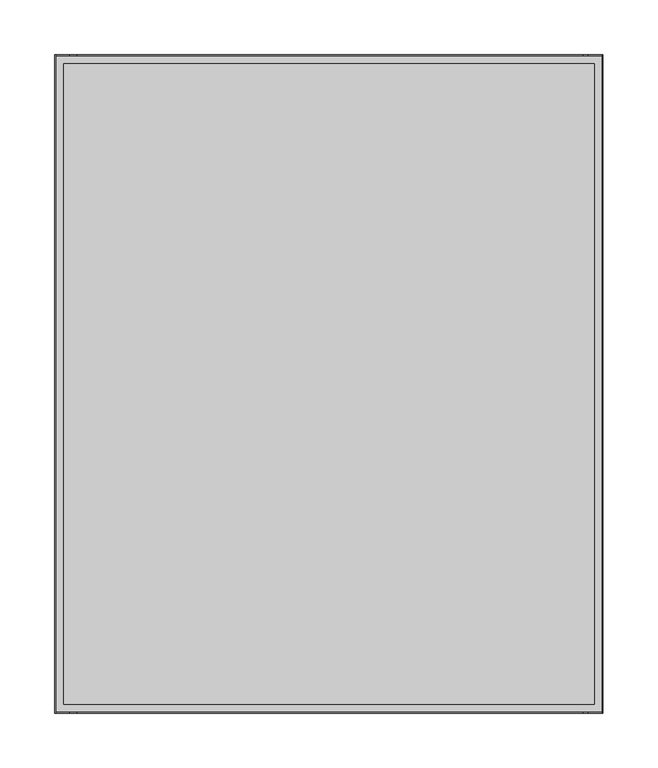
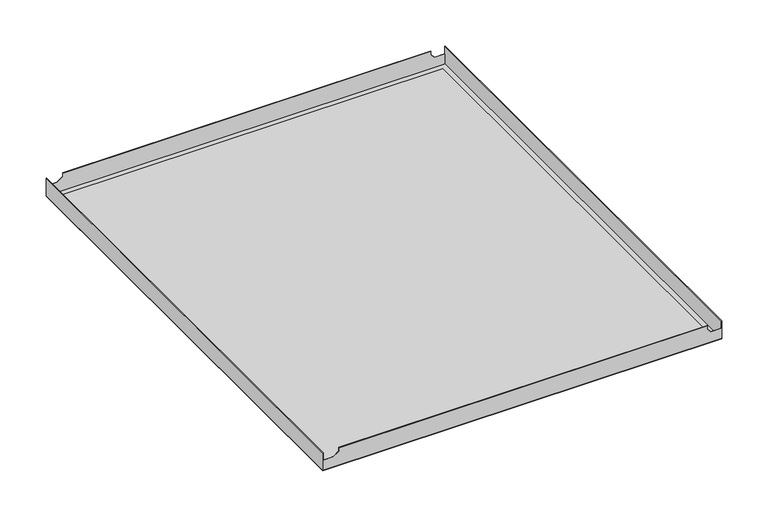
"""IFC4 building model written with IfcOpenShell, lengths in millimetres: proxy geometry, durlum_S1_panel : durlum_S1_panel_wall_length_cut."""

from ifc_helpers import new_model, si_unit, frame, origin, origin_with_axes, place, context, project, spatial, polyline, outline, extrude, faceted_brep, source, transform, mapped, element, save


def generic_models_ee13603d(model_context):
    return source(origin(), model_context, "Body", "SolidModel", [
        faceted_brep([(-250.0, 300.0, 23.5), (-250.0, -300.0, 23.5), (-249.4, -300.0, 23.5), (-249.4, 300.0, 23.5), (250.0, -300.0, 23.5), (250.0, 300.0, 23.5), (249.4, 300.0, 23.5), (249.4, -300.0, 23.5), (-229.4, 300.0, 23.5), (-229.4, 299.4, 23.5), (231.4, 299.4, 23.5), (231.4, 300.0, 23.5), (-229.4, -299.4, 23.5), (-229.4, -300.0, 23.5), (231.4, -300.0, 23.5), (231.4, -299.4, 23.5), (250.0, 300.0, 0.6), (250.0, -300.0, 0.6), (-250.0, -300.0, 0.6), (-250.0, 300.0, 0.6), (249.4, 299.4, 0.6), (-249.4, 299.4, 0.6), (-249.4, -299.4, 0.6), (249.4, -299.4, 0.6), (-249.4, 300.0, 13.6669893), (-236.6658218, 300.0, 13.6669893), (-229.4, 300.0, 18.9328111), (231.4, 300.0, 18.9469988), (236.6800094, 300.0, 13.6669893), (249.4, 300.0, 13.6669893), (249.4, -300.0, 13.6669893), (236.6800094, -300.0, 13.6669893), (231.4, -300.0, 18.9469988), (-229.4, -300.0, 18.9328111), (-236.6658218, -300.0, 13.6669893), (-249.4, -300.0, 13.6669893), (249.4, 299.4, 13.6669893), (249.4, -299.4, 13.6669893), (-249.4, -299.4, 13.6669893), (-236.6658218, -299.4, 13.6669893), (-229.4, -299.4, 18.9328111), (231.4, -299.4, 18.9469988), (236.6800094, -299.4, 13.6669893), (-249.4, 299.4, 13.6669893), (236.6800094, 299.4, 13.6669893), (231.4, 299.4, 18.9469988), (-229.4, 299.4, 18.9328111), (-236.6658218, 299.4, 13.6669893)], [[[0, 1, 2, 3]], [[4, 5, 6, 7]], [[8, 9, 10, 11]], [[12, 13, 14, 15]], [[16, 17, 18, 19], [20, 21, 22, 23]], [[16, 19, 0, 3, 24, 25, 26, 8, 11, 27, 28, 29, 6, 5]], [[1, 0, 19, 18]], [[18, 17, 4, 7, 30, 31, 32, 14, 13, 33, 34, 35, 2, 1]], [[5, 4, 17, 16]], [[6, 29, 36, 20, 23, 37, 30, 7]], [[23, 22, 38, 39, 40, 12, 15, 41, 42, 37]], [[22, 21, 43, 24, 3, 2, 35, 38]], [[21, 20, 36, 44, 45, 10, 9, 46, 47, 43]], [[38, 35, 34, 39]], [[24, 43, 47, 25]], [[39, 34, 33, 40]], [[25, 47, 46, 26]], [[40, 33, 13, 12]], [[26, 46, 9, 8]], [[36, 29, 28, 44]], [[30, 37, 42, 31]], [[44, 28, 27, 45]], [[31, 42, 41, 32]], [[32, 41, 15, 14]], [[45, 27, 11, 10]]]),
        extrude(outline(polyline([(242.0, 292.0), (242.0, -292.0), (-242.0, -292.0), (-242.0, 292.0), (242.0, 292.0)])), frame((0.0, 0.0, 0.6), z_axis=(0.0, 0.0, 1.0), x_axis=(1.0, 0.0, 0.0)), (0.0, 0.0, 1.0), 0.6),
        extrude(outline(polyline([(250.0, 300.0), (250.0, -300.0), (-250.0, -300.0), (-250.0, 300.0), (250.0, 300.0)]), holes=[polyline([(242.0, 292.0), (-242.0, 292.0), (-242.0, -292.0), (242.0, -292.0), (242.0, 292.0)])]), origin_with_axes(), (0.0, 0.0, 1.0), 0.6),
        extrude(outline(polyline([(242.0, 292.0), (242.0, -292.0), (-242.0, -292.0), (-242.0, 292.0), (242.0, 292.0)])), origin_with_axes(), (0.0, 0.0, 1.0), 0.6),
    ])


if __name__ == "__main__":
    model = new_model("IFC4")
    model_context = context("Model", 3, world=origin())
    ifc_project = project(units=[si_unit("LENGTHUNIT", "METRE", prefix="MILLI")], contexts=[model_context])
    site = spatial("IfcSite", under=ifc_project)
    building = spatial("IfcBuilding", under=site)
    placement = place(None, origin())
    generic_models_shape = generic_models_ee13603d(model_context)
    element("IfcBuildingElementProxy", 1, Name="durlum_S1_panel : durlum_S1_panel_wall_length_cut", ObjectType="durlum_S1_panel : durlum_S1_panel_wall_length_cut", at=placement, inside=building, context=model_context, shape_type="MappedRepresentation", body=[
        mapped(generic_models_shape, transform((0.0, 0.0, 0.0), x_axis=(1.0, 0.0, 0.0), y_axis=(0.0, 1.0, 0.0), z_axis=(0.0, 0.0, 1.0))),
    ])
    save(model, "model.ifc")
